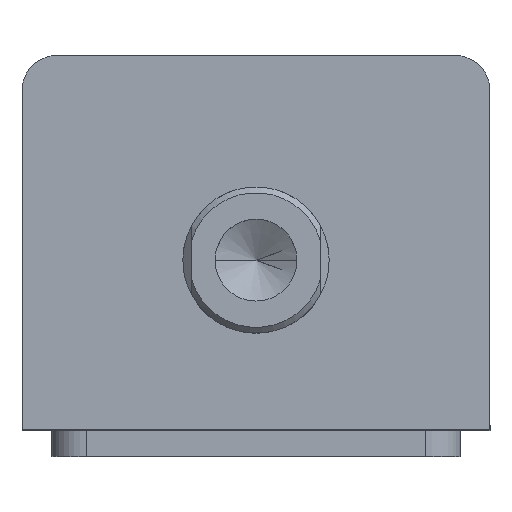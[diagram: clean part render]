
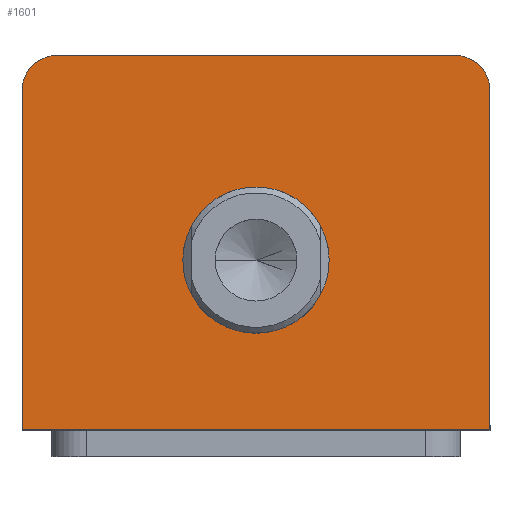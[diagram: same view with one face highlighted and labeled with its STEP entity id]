
A CAD part, top view. The second image highlights one B-rep face of the part: STEP entity #1601.
In plain terms, the highlighted planar face has unit normal (0, 0, 1).
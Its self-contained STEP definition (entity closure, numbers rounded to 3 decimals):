
#177 = DIRECTION ( 'NONE',  ( 0., 1., 0. ) ) ;
#178 = CARTESIAN_POINT ( 'NONE',  ( 40., 32., 110. ) ) ;
#213 = DIRECTION ( 'NONE',  ( -1., 0., 0. ) ) ;
#228 = DIRECTION ( 'NONE',  ( 1., 0., 0. ) ) ;
#242 = CARTESIAN_POINT ( 'NONE',  ( -40., -32., 110. ) ) ;
#329 = DIRECTION ( 'NONE',  ( 1., 0., 0. ) ) ;
#330 = DIRECTION ( 'NONE',  ( 0., 0., 1. ) ) ;
#331 = CARTESIAN_POINT ( 'NONE',  ( 0., -3., 110. ) ) ;
#353 = CARTESIAN_POINT ( 'NONE',  ( -40., 32., 110. ) ) ;
#569 = EDGE_LOOP ( 'NONE', ( #1742, #1741 ) ) ;
#584 = EDGE_LOOP ( 'NONE', ( #1740, #1739, #1738, #1737, #1699, #1698 ) ) ;
#834 = VERTEX_POINT ( 'NONE', #1443 ) ;
#851 = VERTEX_POINT ( 'NONE', #1426 ) ;
#855 = VERTEX_POINT ( 'NONE', #1422 ) ;
#869 = VERTEX_POINT ( 'NONE', #1408 ) ;
#873 = VERTEX_POINT ( 'NONE', #1404 ) ;
#877 = VERTEX_POINT ( 'NONE', #1400 ) ;
#895 = VERTEX_POINT ( 'NONE', #1382 ) ;
#925 = VERTEX_POINT ( 'NONE', #1352 ) ;
#1120 = EDGE_CURVE ( 'NONE', #925, #895, #2018, .T. ) ;
#1148 = EDGE_CURVE ( 'NONE', #855, #851, #2056, .T. ) ;
#1163 = EDGE_CURVE ( 'NONE', #851, #877, #2090, .T. ) ;
#1180 = EDGE_CURVE ( 'NONE', #869, #873, #2119, .T. ) ;
#1193 = EDGE_CURVE ( 'NONE', #877, #869, #2135, .T. ) ;
#1202 = EDGE_CURVE ( 'NONE', #873, #834, #2148, .T. ) ;
#1206 = EDGE_CURVE ( 'NONE', #834, #855, #2154, .T. ) ;
#1239 = EDGE_CURVE ( 'NONE', #895, #925, #2206, .T. ) ;
#1352 = CARTESIAN_POINT ( 'NONE',  ( -12.5, -3., 110. ) ) ;
#1382 = CARTESIAN_POINT ( 'NONE',  ( 12.5, -3., 110. ) ) ;
#1400 = CARTESIAN_POINT ( 'NONE',  ( 40., 26., 110. ) ) ;
#1404 = CARTESIAN_POINT ( 'NONE',  ( -34., 32., 110. ) ) ;
#1408 = CARTESIAN_POINT ( 'NONE',  ( 34., 32., 110. ) ) ;
#1422 = CARTESIAN_POINT ( 'NONE',  ( -40., -32., 110. ) ) ;
#1426 = CARTESIAN_POINT ( 'NONE',  ( 40., -32., 110. ) ) ;
#1443 = CARTESIAN_POINT ( 'NONE',  ( -40., 26., 110. ) ) ;
#1463 = AXIS2_PLACEMENT_3D ( 'NONE', #2922, #2921, #2919 ) ;
#1476 = AXIS2_PLACEMENT_3D ( 'NONE', #2812, #2809, #2807 ) ;
#1512 = AXIS2_PLACEMENT_3D ( 'NONE', #331, #330, #329 ) ;
#1601 = ADVANCED_FACE ( 'NONE', ( #2958, #2966 ), #2468, .T. ) ;
#1698 = ORIENTED_EDGE ( 'NONE', *, *, #1193, .T. ) ;
#1699 = ORIENTED_EDGE ( 'NONE', *, *, #1163, .T. ) ;
#1737 = ORIENTED_EDGE ( 'NONE', *, *, #1148, .T. ) ;
#1738 = ORIENTED_EDGE ( 'NONE', *, *, #1206, .T. ) ;
#1739 = ORIENTED_EDGE ( 'NONE', *, *, #1202, .T. ) ;
#1740 = ORIENTED_EDGE ( 'NONE', *, *, #1180, .T. ) ;
#1741 = ORIENTED_EDGE ( 'NONE', *, *, #1120, .F. ) ;
#1742 = ORIENTED_EDGE ( 'NONE', *, *, #1239, .F. ) ;
#2018 = CIRCLE ( 'NONE', #1512, 12.5 ) ;
#2056 = LINE ( 'NONE', #242, #2063 ) ;
#2063 = VECTOR ( 'NONE', #228, 1000. ) ;
#2090 = LINE ( 'NONE', #178, #2093 ) ;
#2093 = VECTOR ( 'NONE', #177, 1000. ) ;
#2119 = LINE ( 'NONE', #353, #2122 ) ;
#2122 = VECTOR ( 'NONE', #213, 1000. ) ;
#2135 = CIRCLE ( 'NONE', #1476, 6. ) ;
#2148 = CIRCLE ( 'NONE', #1463, 6. ) ;
#2154 = LINE ( 'NONE', #2909, #2157 ) ;
#2157 = VECTOR ( 'NONE', #2908, 1000. ) ;
#2206 = CIRCLE ( 'NONE', #3328, 12.5 ) ;
#2391 = DIRECTION ( 'NONE',  ( 0., 0., 1. ) ) ;
#2396 = DIRECTION ( 'NONE',  ( 1., 0., 0. ) ) ;
#2468 = PLANE ( 'NONE',  #2704 ) ;
#2585 = CARTESIAN_POINT ( 'NONE',  ( 0., 0., 110. ) ) ;
#2704 = AXIS2_PLACEMENT_3D ( 'NONE', #2585, #2391, #2396 ) ;
#2802 = DIRECTION ( 'NONE',  ( 1., 0., 0. ) ) ;
#2803 = DIRECTION ( 'NONE',  ( 0., 0., 1. ) ) ;
#2804 = CARTESIAN_POINT ( 'NONE',  ( 0., -3., 110. ) ) ;
#2807 = DIRECTION ( 'NONE',  ( 1., 0., 0. ) ) ;
#2809 = DIRECTION ( 'NONE',  ( 0., 0., 1. ) ) ;
#2812 = CARTESIAN_POINT ( 'NONE',  ( 34., 26., 110. ) ) ;
#2908 = DIRECTION ( 'NONE',  ( 0., -1., 0. ) ) ;
#2909 = CARTESIAN_POINT ( 'NONE',  ( -40., 32., 110. ) ) ;
#2919 = DIRECTION ( 'NONE',  ( 1., 0., 0. ) ) ;
#2921 = DIRECTION ( 'NONE',  ( 0., 0., 1. ) ) ;
#2922 = CARTESIAN_POINT ( 'NONE',  ( -34., 26., 110. ) ) ;
#2958 = FACE_BOUND ( 'NONE', #569, .T. ) ;
#2966 = FACE_OUTER_BOUND ( 'NONE', #584, .T. ) ;
#3328 = AXIS2_PLACEMENT_3D ( 'NONE', #2804, #2803, #2802 ) ;
